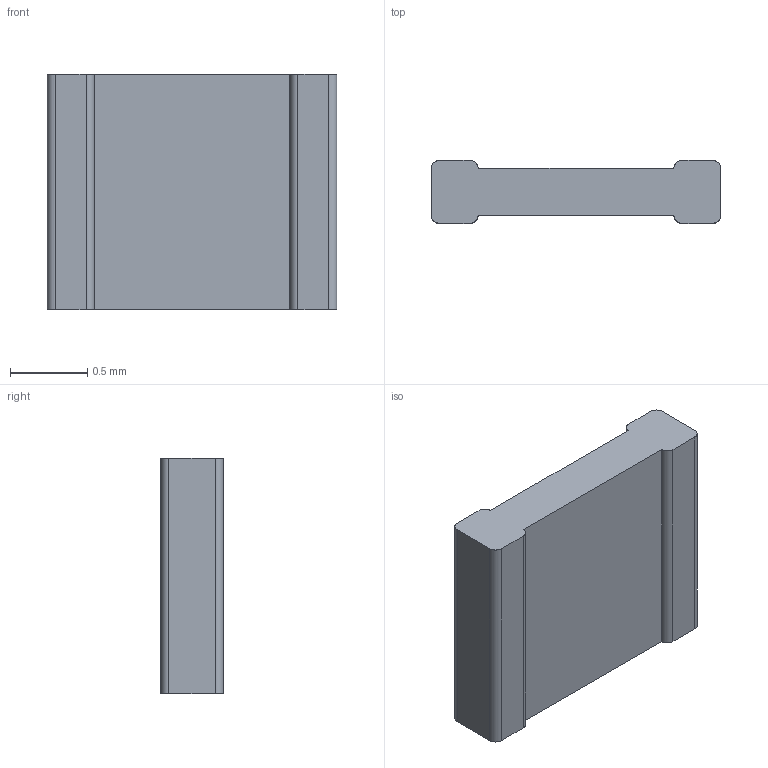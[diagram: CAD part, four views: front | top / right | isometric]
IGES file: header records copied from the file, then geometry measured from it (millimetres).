
Start section: SolidWorks IGES file using analytic representation for surfaces
Global section: file name: C:\Users\austin.mayabb\OneDrive - Lake Shore Cryotronics\SolidWorks Project\Defeatured Parts\Rox Final Defeatures\RX-103A-BR\RX-103A-BR.IGS; native system: SolidWorks 2020; preprocessor: SolidWorks 2020; author: austin.mayabb; date: 200511.113204; units: millimetre
Bounding box: 1.88 x 0.41 x 1.52 mm (x, y, z)
Surface area: 8.3 mm2 (no closed solid volume)
Topology: 0 solids, 0 shells, 23 faces, 162 edges, 162 vertices
Faces by surface type: bspline 13, revolution 10
